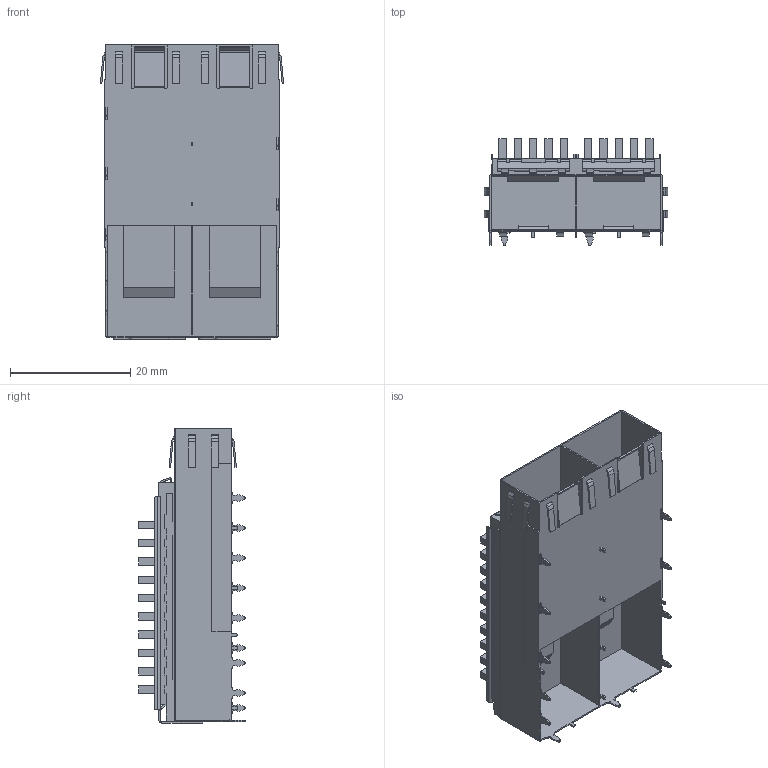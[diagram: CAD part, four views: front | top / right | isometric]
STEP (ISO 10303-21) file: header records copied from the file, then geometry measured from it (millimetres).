
FILE_DESCRIPTION(/* description */ (''),/* implementation_level */ '2;1');
FILE_NAME(/* name */ 'SFP 1X2 压接脚 无月牙 散热器15.8.stp',/* time_stamp */ '2026-06-10T16:08:34+08:00',/* author */ (''),/* organization */ (''),/* preprocessor_version */ 'ST-DEVELOPER v16.7',/* originating_system */ 'SIEMENS PLM Software NX 1847',/* authorisation */ '');
FILE_SCHEMA (('AUTOMOTIVE_DESIGN { 1 0 10303 214 3 1 1 1 }'));
Length unit declared in the file: millimetre
Products named in the file (1): Admi878C54CAeovh
Bounding box: 30.55 x 17.75 x 49 mm (x, y, z)
Volume: 4806.1 mm3; surface area: 10691.7 mm2
Topology: 1 solids, 1 shells, 1415 faces, 3751 edges, 2430 vertices
Faces by surface type: plane 1074, cylinder 315, bspline 24, sphere 2
Entity records: 43931 total; most frequent: CARTESIAN_POINT 8396, ORIENTED_EDGE 7498, DIRECTION 7075, EDGE_CURVE 3749, LINE 3041, VECTOR 3041, VERTEX_POINT 2430, AXIS2_PLACEMENT_3D 2017
